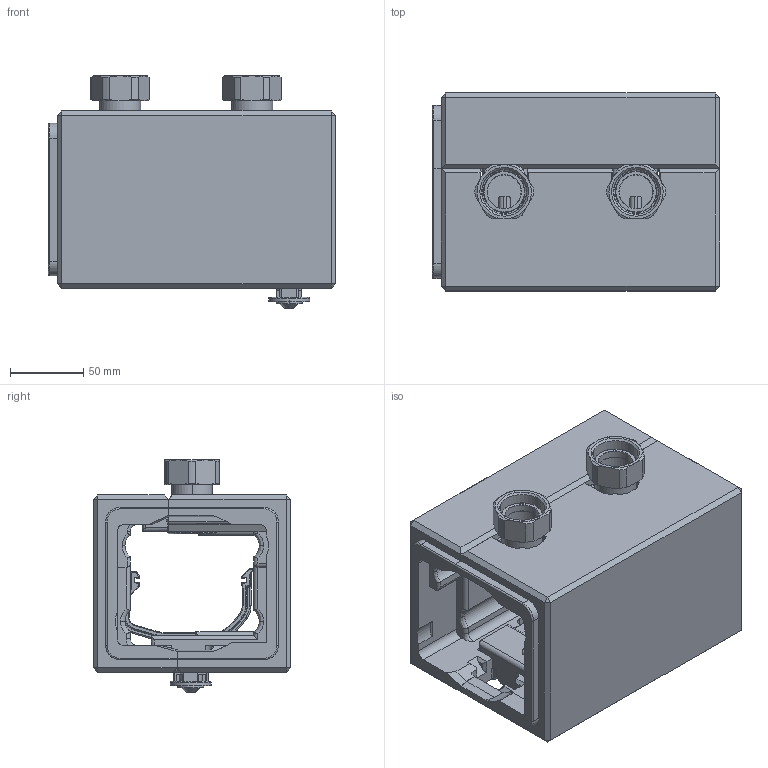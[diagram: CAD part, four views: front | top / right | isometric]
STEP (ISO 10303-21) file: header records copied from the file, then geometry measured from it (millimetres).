
FILE_DESCRIPTION (( 'STEP AP214' ), '1' );
FILE_NAME ('HSM_90B_rozszerzenie_ProFusion_HSM_90_o_1_obieg_buforowy_79601_0_2D_AFRISO.STEP', '2026-03-23T11:30:55', ( '' ), ( '' ), 'SwSTEP 2.0', 'SolidWorks 2023', '' );
FILE_SCHEMA (( 'AUTOMOTIVE_DESIGN' ));
Length unit declared in the file: millimetre
Products named in the file (12): 05 00 350466__X_DCberwurfmutter G1_2; D_X_E4mmung_R_X_FCckseite; D_X_E4mmung_Verteiler_Front; 907380 8020_LKS ISO 7380-2 M8X20; 801 000 0332_O-Ring _X_F826,5x3,0mm EPDM; 05 01 001286_Einsteckstutzen G1 HSM; HSM_90B_rozszerzenie_ProFusion_HSM_90_o_1_obieg_buforowy_79601_0_2D_AFRISO; 05 01 001278_Wandhalter HSM; Blindeinsatz; 05 00 350466__X_DCberwurfmutter G1; ISO 4032-M8-10_Sechskantmuttern
Assembly tree (13 placements, depth 3):
  HSM_90B_rozszerzenie_ProFusion_HSM_90_o_1_obieg_buforowy_79601_0_2D_AFRISO
    801 000 0332_O-Ring _X_F826,5x3,0mm EPDM  x2
    Blindeinsatz
      Blindeinsatz
    D_X_E4mmung_Verteiler_Front
    D_X_E4mmung_R_X_FCckseite
    05 01 001278_Wandhalter HSM
    907380 8020_LKS ISO 7380-2 M8X20
    ISO 4032-M8-10_Sechskantmuttern
    05 00 350466__X_DCberwurfmutter G1
    05 01 001286_Einsteckstutzen G1 HSM  x2
    05 00 350466__X_DCberwurfmutter G1_2
Bounding box: 196 x 135 x 158.55 mm (x, y, z)
Volume: 1671522 mm3; surface area: 255314.7 mm2
Topology: 12 solids, 12 shells, 1588 faces, 4121 edges, 2596 vertices
Faces by surface type: plane 749, cylinder 452, bspline 267, cone 117, torus 3
Entity records: 58799 total; most frequent: CARTESIAN_POINT 23884, ORIENTED_EDGE 7814, DIRECTION 6243, EDGE_CURVE 3907, VERTEX_POINT 2476, VECTOR 2219, LINE 2219, AXIS2_PLACEMENT_3D 2012
